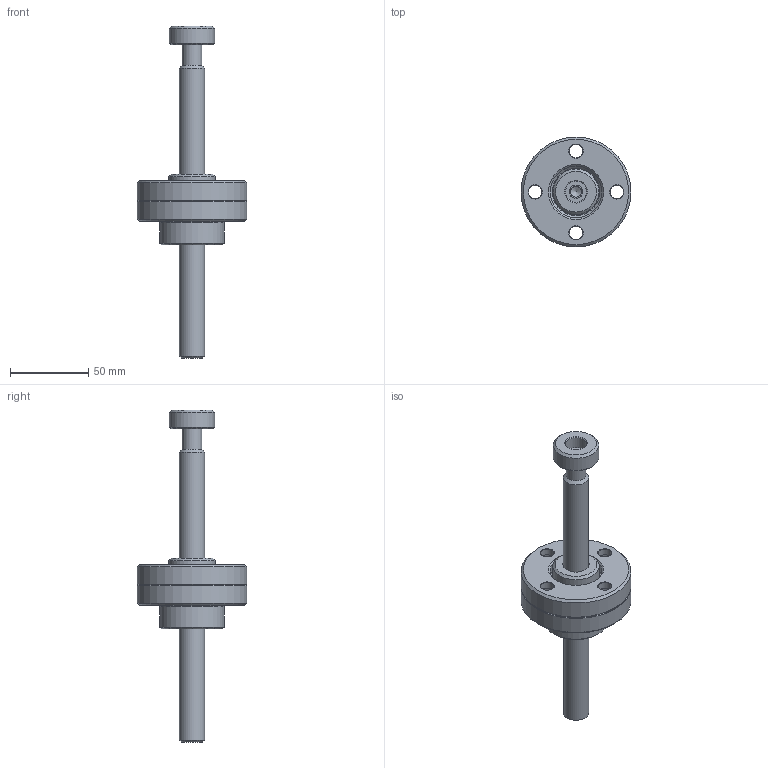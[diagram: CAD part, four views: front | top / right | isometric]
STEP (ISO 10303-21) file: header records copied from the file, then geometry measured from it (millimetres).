
FILE_DESCRIPTION(/* description */ (''),/* implementation_level */ '2;1');
FILE_NAME(/* name */ 'AS_16',/* time_stamp */ '2005-12-20T13:49:10+01:00',/* author */ (''),/* organization */ (''),/* preprocessor_version */ 'ST-DEVELOPER v9',/* originating_system */ 'EDS PLM SOLUTIONS - UNIGRAPHICS NX 1.0',/* authorisation */ '');
FILE_SCHEMA (('CONFIG_CONTROL_DESIGN'));
Length unit declared in the file: millimetre
Products named in the file (1): Admi6DDD0028
Bounding box: 70 x 70 x 211.5 mm (x, y, z)
Volume: 143806.9 mm3; surface area: 41598.2 mm2
Topology: 3 solids, 3 shells, 79 faces, 165 edges, 108 vertices
Faces by surface type: cylinder 31, cone 25, plane 22, torus 1
Full cylindrical faces by diameter (mm): 6.985 x1, 8.5 x9, 12.5 x1, 13.2 x4, 13.5 x5, 16 x1, 16.1 x1, 23.3 x1, 29 x1, 29.7 x1, 30.2 x1, 33.1 x1, 33.9 x1, 41 x1, 70 x2
Entity records: 1780 total; most frequent: DIRECTION 332, CARTESIAN_POINT 253, EDGE_LOOP 172, ORIENTED_EDGE 172, AXIS2_PLACEMENT_3D 166, FACE_BOUND 126, VERTEX_POINT 87, EDGE_CURVE 86
